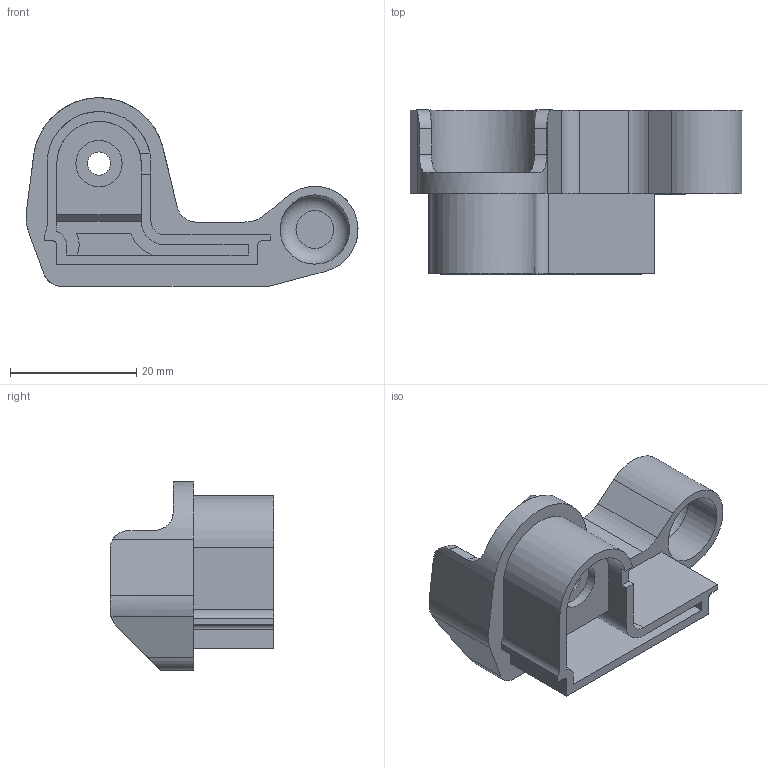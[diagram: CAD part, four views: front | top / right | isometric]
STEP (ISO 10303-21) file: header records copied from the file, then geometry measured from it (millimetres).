
FILE_DESCRIPTION(/* description */ (''),/* implementation_level */ '2;1');
FILE_NAME(/* name */ 'Endcap.step',/* time_stamp */ '2024-08-02T09:09:38-07:00',/* author */ (''),/* organization */ (''),/* preprocessor_version */ 'ST-DEVELOPER v20',/* originating_system */ 'Autodesk Translation Framework v13.14.0.145',/* authorisation */ '');
FILE_SCHEMA (('AUTOMOTIVE_DESIGN { 1 0 10303 214 3 1 1 }'));
Length unit declared in the file: millimetre
Products named in the file (1): Endcap
Bounding box: 52.68 x 26 x 29.93 mm (x, y, z)
Volume: 9831.9 mm3; surface area: 7185.3 mm2
Topology: 1 solids, 1 shells, 81 faces, 219 edges, 145 vertices
Faces by surface type: plane 44, cylinder 32, torus 3, cone 2
Full cylindrical faces by diameter (mm): 3.675 x3, 7.35 x1, 9.35 x1, 11 x1, 13.9 x1, 16.9 x1
Entity records: 2662 total; most frequent: CARTESIAN_POINT 525, DIRECTION 444, ORIENTED_EDGE 438, EDGE_CURVE 219, AXIS2_PLACEMENT_3D 154, VERTEX_POINT 145, LINE 136, VECTOR 136
